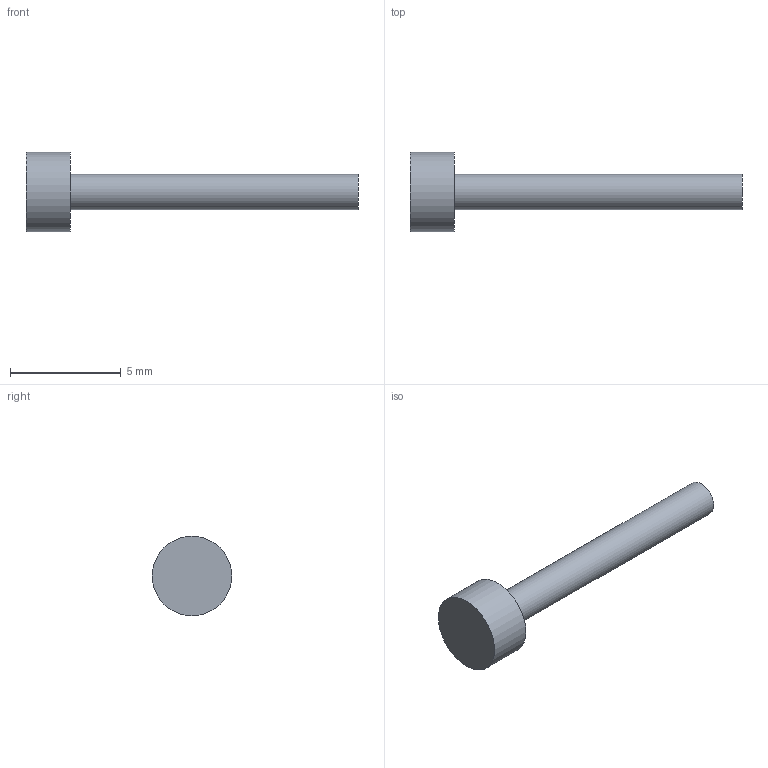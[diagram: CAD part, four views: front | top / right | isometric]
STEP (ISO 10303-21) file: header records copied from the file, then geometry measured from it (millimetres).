
FILE_DESCRIPTION(('Open CASCADE Model'),'2;1');
FILE_NAME('Open CASCADE Shape Model','2026-09-24T02:53:21',('Author'),( 'Open CASCADE'),'Open CASCADE STEP processor 7.8','Open CASCADE 7.8' ,'Unknown');
FILE_SCHEMA(('AUTOMOTIVE_DESIGN { 1 0 10303 214 1 1 1 1 }'));
Length unit declared in the file: millimetre
Products named in the file (1): Open CASCADE STEP translator 7.8 32
Bounding box: 15 x 3.6 x 3.6 mm (x, y, z)
Volume: 46.5 mm3; surface area: 108.3 mm2
Topology: 1 solids, 1 shells, 5 faces, 6 edges, 4 vertices
Faces by surface type: plane 3, cylinder 2
Full cylindrical faces by diameter (mm): 1.6 x1, 3.6 x1
Entity records: 192 total; most frequent: DIRECTION 34, CARTESIAN_POINT 28, ORIENTED_EDGE 12, PCURVE 12, DEFINITIONAL_REPRESENTATION 12, AXIS2_PLACEMENT_3D 10, LINE 10, VECTOR 10
